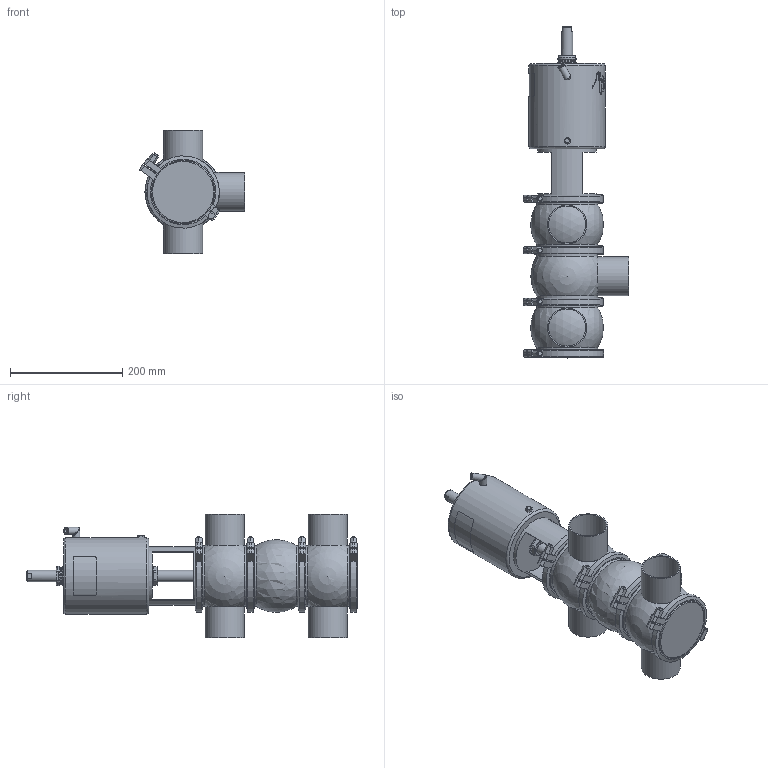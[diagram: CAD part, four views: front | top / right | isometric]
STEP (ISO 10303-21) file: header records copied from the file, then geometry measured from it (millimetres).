
FILE_DESCRIPTION (( 'STEP AP214' ), '1' );
FILE_NAME ('INNOVA L W W DIN 065 T3 AS NC_10.241.16.0028.STEP', '2024-08-07T07:07:37', ( '' ), ( '' ), 'SwSTEP 2.0', 'SolidWorks 2023', '' );
FILE_SCHEMA (( 'AUTOMOTIVE_DESIGN' ));
Length unit declared in the file: millimetre
Products named in the file (7): 10.241.15.0001_DIN 065; INNOVA L W W DIN 065 T3 AS NC_10.241.16.0028; 10.240.15.0014_T3 AS P180; 10.240.15.0010_DN 065; 10.240.15.0006_DIN 065; 10.240.15.0007_DIN 065; 10.240.15.0001_DN 065
Assembly tree (10 placements, depth 2):
  INNOVA L W W DIN 065 T3 AS NC_10.241.16.0028
    10.240.15.0007_DIN 065  x2
    10.240.15.0006_DIN 065
    10.240.15.0010_DN 065
    10.240.15.0014_T3 AS P180
    10.240.15.0001_DN 065  x4
    10.241.15.0001_DIN 065
Bounding box: 188.15 x 592.5 x 220 mm (x, y, z)
Volume: 5947405.1 mm3; surface area: 584696.8 mm2
Topology: 11 solids, 11 shells, 545 faces, 1419 edges, 926 vertices
Faces by surface type: plane 267, cylinder 140, bspline 80, cone 46, sphere 8, torus 4
Full cylindrical faces by diameter (mm): 6.15 x1, 8 x9, 8.5 x1, 10.5 x1, 12.5 x3, 16 x1, 20 x2, 31 x1, 34.5 x2, 36.5 x1, 66 x5, 70 x5, 105 x1, 109 x7, 121 x8, 136 x1
Entity records: 20811 total; most frequent: CARTESIAN_POINT 11331, ORIENTED_EDGE 1630, DIRECTION 1287, EDGE_CURVE 815, VERTEX_POINT 566, AXIS2_PLACEMENT_3D 499, EDGE_LOOP 437, FACE_OUTER_BOUND 389
